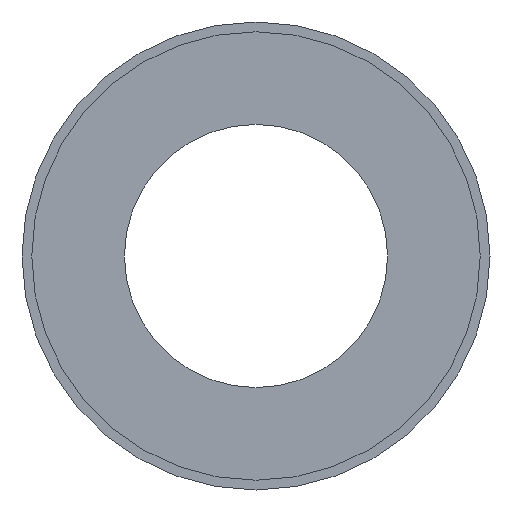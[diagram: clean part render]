
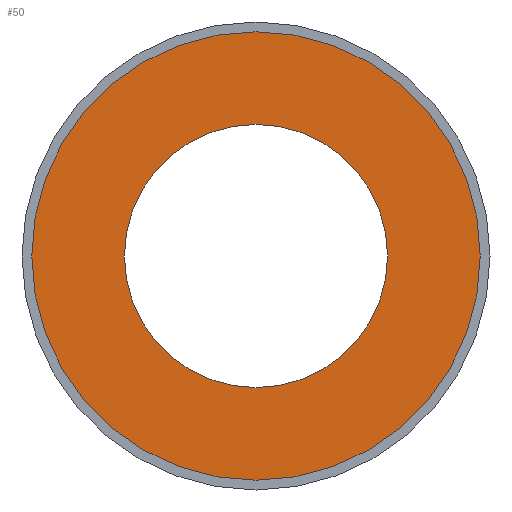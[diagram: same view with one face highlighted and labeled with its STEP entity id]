
A CAD part, front view. The second image highlights one B-rep face of the part: STEP entity #50.
In plain terms, the highlighted planar face has unit normal (0, -1, 0).
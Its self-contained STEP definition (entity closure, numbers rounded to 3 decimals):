
#5 = CIRCLE ( 'NONE', #11, 13.5 ) ;
#11 = AXIS2_PLACEMENT_3D ( 'NONE', #172, #229, #282 ) ;
#46 = CARTESIAN_POINT ( 'NONE',  ( 0., 2.54, 13.5 ) ) ;
#50 = ADVANCED_FACE ( 'NONE', ( #79, #254 ), #302, .T. ) ;
#71 = AXIS2_PLACEMENT_3D ( 'NONE', #268, #121, #175 ) ;
#75 = DIRECTION ( 'NONE',  ( 0., -1., 0. ) ) ;
#79 = FACE_OUTER_BOUND ( 'NONE', #275, .T. ) ;
#120 = ORIENTED_EDGE ( 'NONE', *, *, #204, .T. ) ;
#121 = DIRECTION ( 'NONE',  ( 0., -1., 0. ) ) ;
#131 = ORIENTED_EDGE ( 'NONE', *, *, #311, .T. ) ;
#134 = CARTESIAN_POINT ( 'NONE',  ( 0., 2.54, -23. ) ) ;
#160 = AXIS2_PLACEMENT_3D ( 'NONE', #173, #75, #223 ) ;
#164 = DIRECTION ( 'NONE',  ( 0., 0., -1. ) ) ;
#172 = CARTESIAN_POINT ( 'NONE',  ( 0., 2.54, 0. ) ) ;
#173 = CARTESIAN_POINT ( 'NONE',  ( 13.5, 2.54, 0. ) ) ;
#174 = AXIS2_PLACEMENT_3D ( 'NONE', #209, #329, #292 ) ;
#175 = DIRECTION ( 'NONE',  ( 0., 0., -1. ) ) ;
#177 = EDGE_CURVE ( 'NONE', #291, #289, #201, .T. ) ;
#184 = AXIS2_PLACEMENT_3D ( 'NONE', #188, #299, #164 ) ;
#187 = CIRCLE ( 'NONE', #184, 23. ) ;
#188 = CARTESIAN_POINT ( 'NONE',  ( 0., 2.54, 0. ) ) ;
#201 = CIRCLE ( 'NONE', #174, 13.5 ) ;
#204 = EDGE_CURVE ( 'NONE', #323, #332, #304, .T. ) ;
#207 = EDGE_LOOP ( 'NONE', ( #330, #298 ) ) ;
#209 = CARTESIAN_POINT ( 'NONE',  ( 0., 2.54, 0. ) ) ;
#223 = DIRECTION ( 'NONE',  ( 0., 0., -1. ) ) ;
#229 = DIRECTION ( 'NONE',  ( 0., -1., 0. ) ) ;
#254 = FACE_BOUND ( 'NONE', #207, .T. ) ;
#268 = CARTESIAN_POINT ( 'NONE',  ( 0., 2.54, 0. ) ) ;
#274 = CARTESIAN_POINT ( 'NONE',  ( 0., 2.54, 23. ) ) ;
#275 = EDGE_LOOP ( 'NONE', ( #131, #120 ) ) ;
#282 = DIRECTION ( 'NONE',  ( 0., 0., -1. ) ) ;
#289 = VERTEX_POINT ( 'NONE', #305 ) ;
#291 = VERTEX_POINT ( 'NONE', #46 ) ;
#292 = DIRECTION ( 'NONE',  ( 0., 0., -1. ) ) ;
#298 = ORIENTED_EDGE ( 'NONE', *, *, #177, .F. ) ;
#299 = DIRECTION ( 'NONE',  ( 0., -1., 0. ) ) ;
#302 = PLANE ( 'NONE',  #160 ) ;
#304 = CIRCLE ( 'NONE', #71, 23. ) ;
#305 = CARTESIAN_POINT ( 'NONE',  ( 0., 2.54, -13.5 ) ) ;
#311 = EDGE_CURVE ( 'NONE', #332, #323, #187, .T. ) ;
#323 = VERTEX_POINT ( 'NONE', #274 ) ;
#329 = DIRECTION ( 'NONE',  ( 0., -1., 0. ) ) ;
#330 = ORIENTED_EDGE ( 'NONE', *, *, #358, .F. ) ;
#332 = VERTEX_POINT ( 'NONE', #134 ) ;
#358 = EDGE_CURVE ( 'NONE', #289, #291, #5, .T. ) ;
